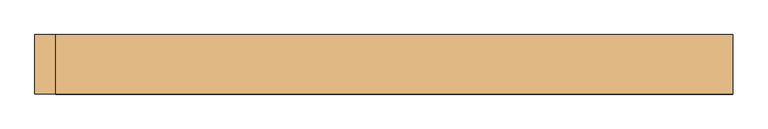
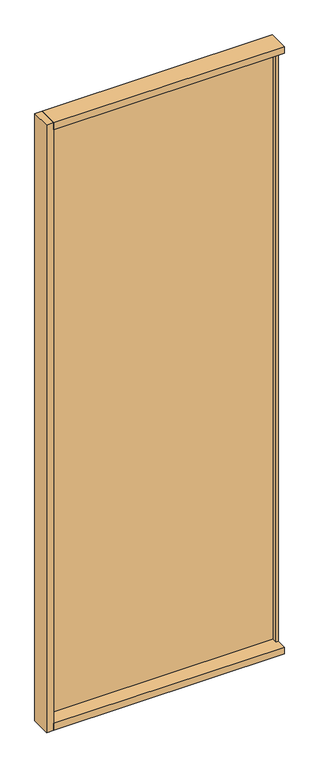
"""IFC4 building model written with IfcOpenShell, lengths in millimetres: door geometry, Mobiliário_Mobiliário de Escritório_Painel Lambri - ACVL (Inicial e Final)_Marelli : ACVL."""

from ifc_helpers import new_model, si_unit, frame, origin, origin_with_axes, place, context, project, spatial, polyline, outline, extrude, source, transform, mapped, element, save


def door_d1d23a0f(model_context):
    return source(origin(), model_context, "Body", "SweptSolid", [
        extrude(outline(polyline([(500.0, 42.5), (500.0, -42.5), (-470.0, -42.5), (-470.0, 42.5), (500.0, 42.5)])), origin_with_axes(), (0.0, 0.0, 1.0), 30.0),
        extrude(outline(polyline([(500.0, 42.5), (500.0, -42.5), (-470.0, -42.5), (-470.0, 42.5), (500.0, 42.5)])), frame((0.0, 0.0, 2670.0), z_axis=(0.0, 0.0, 1.0), x_axis=(1.0, 0.0, 0.0)), (0.0, 0.0, 1.0), 30.0),
        extrude(outline(polyline([(-500.0, -42.5), (-500.0, 42.5), (-470.0, 42.5), (-470.0, -42.5), (-500.0, -42.5)])), origin_with_axes(), (0.0, 0.0, 1.0), 2700.0),
        extrude(outline(polyline([(500.0, -0.5), (490.0, -0.5), (490.0, 42.5), (500.0, 42.5), (500.0, -0.5)])), frame((0.0, 0.0, 30.0), z_axis=(0.0, 0.0, 1.0), x_axis=(1.0, 0.0, 0.0)), (0.0, 0.0, 1.0), 2640.0),
        extrude(outline(polyline([(490.0, 39.5), (490.0, 21.5), (-470.0, 21.5), (-470.0, 39.5), (490.0, 39.5)])), frame((0.0, 0.0, 30.0), z_axis=(0.0, 0.0, 1.0), x_axis=(1.0, 0.0, 0.0)), (0.0, 0.0, 1.0), 2640.0),
    ])


if __name__ == "__main__":
    model = new_model("IFC4")
    model_context = context("Model", 3, world=origin())
    ifc_project = project(units=[si_unit("LENGTHUNIT", "METRE", prefix="MILLI")], contexts=[model_context])
    site = spatial("IfcSite", under=ifc_project)
    building = spatial("IfcBuilding", under=site)
    placement = place(None, origin())
    door_shape = door_d1d23a0f(model_context)
    element("IfcDoor", 1, ObjectType="Mobiliário_Mobiliário de Escritório_Painel Lambri - ACVL (Inicial e Final)_Marelli : ACVL", at=placement, inside=building, context=model_context, shape_type="MappedRepresentation", body=[
        mapped(door_shape, transform((0.0, 0.0, 0.0), x_axis=(1.0, 0.0, 0.0), y_axis=(0.0, 1.0, 0.0), z_axis=(0.0, 0.0, 1.0))),
    ])
    save(model, "model.ifc")
